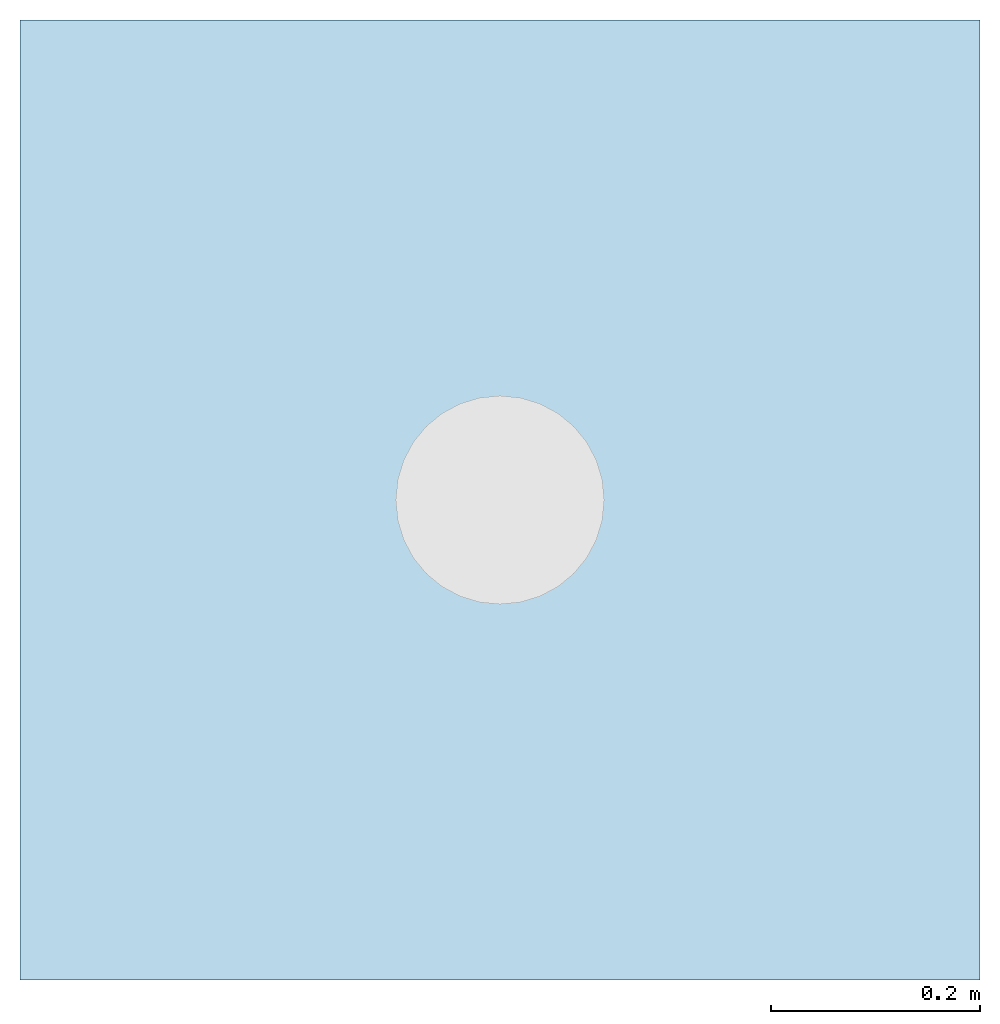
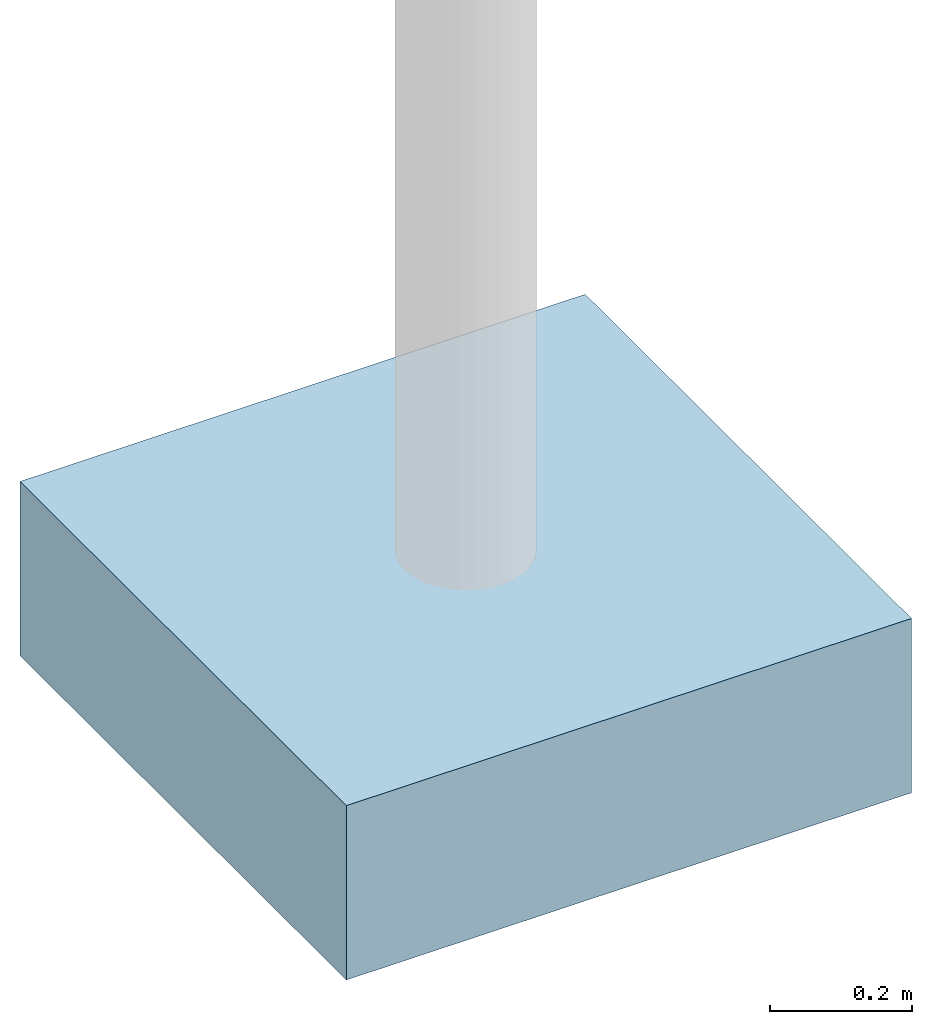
# One storey, part 1 of 2: 1 slab.
"""IFC4 building model written with IfcOpenShell, lengths in metres."""

from ifc_helpers import new_model, entity, si_unit, converted_unit, direction, frame, origin, origin_2d_with_axis, place, context, subcontext, project, spatial, rectangle, extrude, material, type_object, element, save


model = new_model("IFC4")

# Units and contexts
model_context = context("Model", 3, precision=1e-05, world=origin(), true_north=direction((6.123031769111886e-17, 1.0)))
body_context = subcontext(model_context, "Body", "Model", "MODEL_VIEW")
ifc_project = project(units=[si_unit("LENGTHUNIT", "METRE"), converted_unit("PLANEANGLEUNIT", "DEGREE", entity("IfcPlaneAngleMeasure", 0.017453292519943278), si_unit("PLANEANGLEUNIT", "RADIAN"), dimensions=[0, 0, 0, 0, 0, 0, 0]), si_unit("AREAUNIT", "SQUARE_METRE")], contexts=[model_context])

# Site, building, storey
site_placement = place(None, origin())
site = spatial("IfcSite", under=ifc_project, at=site_placement, Name="Default", CompositionType="ELEMENT")
building_placement = place(site_placement, origin())
building = spatial("IfcBuilding", under=site, at=building_placement, CompositionType="ELEMENT")
storey_placement = place(building_placement, origin())
storey = spatial("IfcBuildingStorey", under=building, at=storey_placement, Name="DB_Bezugshoehe_max_Bahnsteigkante", CompositionType="ELEMENT", Elevation=0.0)

# Slab
ifc_material = material(Name="DB_Ortbeton", Category="DB_Beton")
slab_type = type_object("IfcSlabType", Name="DB_Pfosten_rund_Fundament:DB_Pfosten_rund_Fundament", PredefinedType="BASESLAB", material=ifc_material)
slab_placement = place(storey_placement, origin())
element("IfcSlab", 1, at=slab_placement, inside=storey, type_object=slab_type, Name="DB_Pfosten_rund_Fundament:DB_Pfosten_rund_Fundament", ObjectType="DB_Pfosten_rund_Fundament:DB_Pfosten_rund_Fundament", PredefinedType="BASESLAB", context=body_context, shape_type="SweptSolid", body=[
    extrude(rectangle(XDim=0.9199999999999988, YDim=0.9200000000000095, at=origin_2d_with_axis()), frame((0.0, 0.0, -0.29999999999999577), z_axis=(0.0, 0.0, 1.0), x_axis=(-1.0, 0.0, 0.0)), (0.0, 0.0, 1.0), 0.29999999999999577),
])

save(model, "model.ifc")
